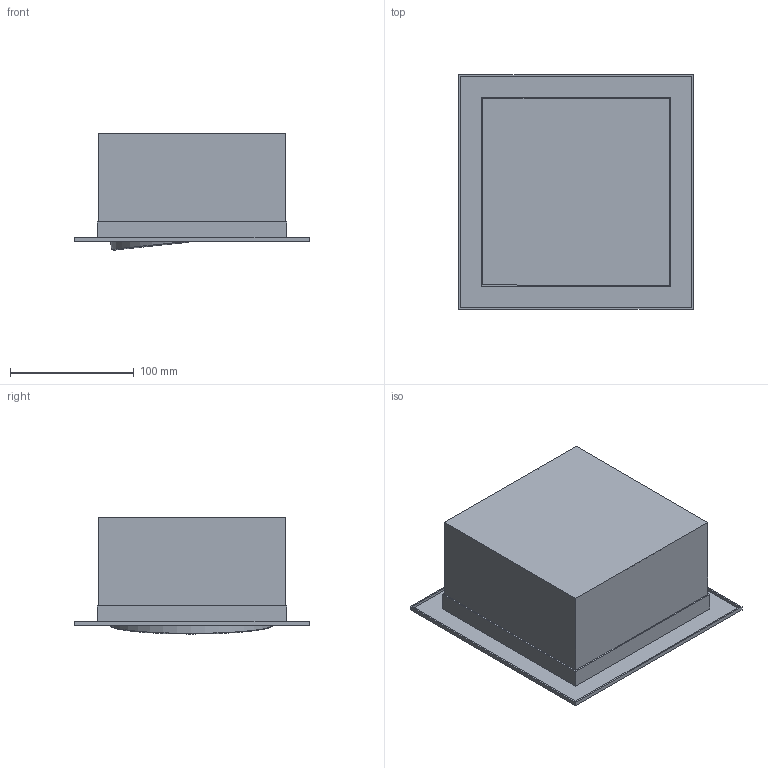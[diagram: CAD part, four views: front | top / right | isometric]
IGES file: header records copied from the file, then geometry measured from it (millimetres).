
Start section: SolidWorks IGES file using analytic representation for surfaces
Global section: file name: X:\PRODUKT\Modele 3D_WWW\_KOLEKCJE WWW\DOWNLIGHT-ES111-9571-9575\DOWNLIGHT-ES111-9571-9575.IGS; native system: SolidWorks 2021; preprocessor: SolidWorks 2021; author: gabriela.tworek; date: 220912.135651; units: millimetre
Bounding box: 190.33 x 190.33 x 94 mm (x, y, z)
Surface area: 289575.3 mm2 (no closed solid volume)
Topology: 0 solids, 0 shells, 441 faces, 3118 edges, 3073 vertices
Faces by surface type: revolution 261, bspline 180
